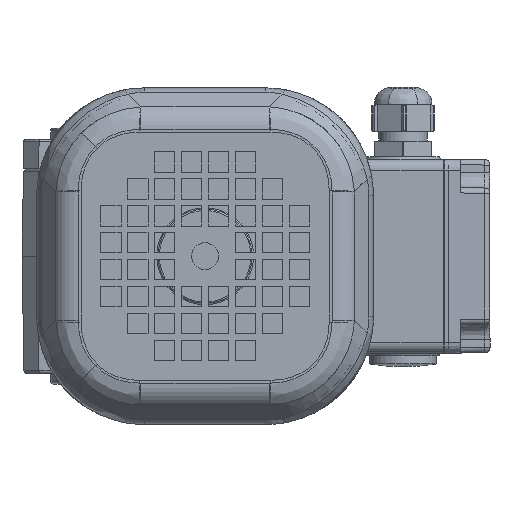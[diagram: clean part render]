
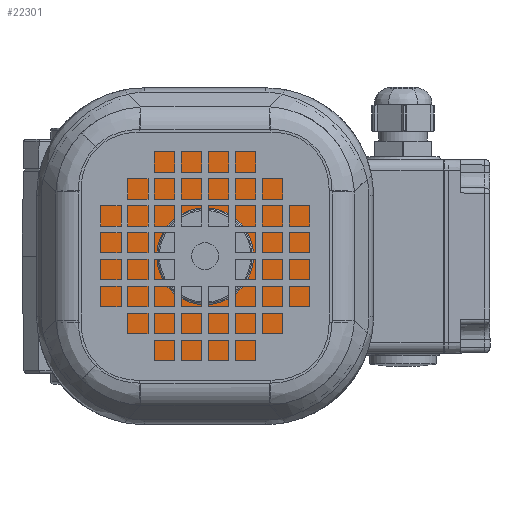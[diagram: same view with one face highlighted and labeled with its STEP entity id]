
A CAD part, left-side view. The second image highlights one B-rep face of the part: STEP entity #22301.
In plain terms, the highlighted planar face has unit normal (-1, 0, 0) as drawn and (0, 0, 1) by its records, which use the part's own axes.
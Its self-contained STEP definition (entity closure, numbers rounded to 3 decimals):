
#615 = EDGE_CURVE ( 'NONE', #2708, #2708, #21680, .T. ) ;
#1135 = DIRECTION ( 'NONE',  ( -1., 0., 0. ) ) ;
#1376 = AXIS2_PLACEMENT_3D ( 'NONE', #60683, #20599, #1135 ) ;
#2451 = CARTESIAN_POINT ( 'NONE',  ( -47.05, 0., 16. ) ) ;
#2708 = VERTEX_POINT ( 'NONE', #2451 ) ;
#4192 = ORIENTED_EDGE ( 'NONE', *, *, #32564, .T. ) ;
#5723 = ORIENTED_EDGE ( 'NONE', *, *, #615, .T. ) ;
#6871 = DIRECTION ( 'NONE',  ( 0., 0., -1. ) ) ;
#7060 = DIRECTION ( 'NONE',  ( 1., 0., 0. ) ) ;
#7244 = EDGE_LOOP ( 'NONE', ( #43090 ) ) ;
#9959 = CARTESIAN_POINT ( 'NONE',  ( -20.15, -36.806, 16. ) ) ;
#10882 = EDGE_LOOP ( 'NONE', ( #23407 ) ) ;
#11289 = EDGE_CURVE ( 'NONE', #31355, #31355, #59574, .T. ) ;
#11543 = EDGE_LOOP ( 'NONE', ( #5723 ) ) ;
#11747 = DIRECTION ( 'NONE',  ( 0., 0., 1. ) ) ;
#12589 = CARTESIAN_POINT ( 'NONE',  ( -20.15, 36.806, 16. ) ) ;
#12809 = AXIS2_PLACEMENT_3D ( 'NONE', #31704, #11747, #51683 ) ;
#14522 = FACE_BOUND ( 'NONE', #36989, .T. ) ;
#16807 = FACE_BOUND ( 'NONE', #7244, .T. ) ;
#17850 = DIRECTION ( 'NONE',  ( 0., 0., -1. ) ) ;
#18262 = CIRCLE ( 'NONE', #36012, 18. ) ;
#18799 = DIRECTION ( 'NONE',  ( 0., 0., -1. ) ) ;
#20599 = DIRECTION ( 'NONE',  ( 0., 0., 1. ) ) ;
#20972 = EDGE_CURVE ( 'NONE', #58269, #58269, #60138, .T. ) ;
#21643 = AXIS2_PLACEMENT_3D ( 'NONE', #49629, #18799, #59349 ) ;
#21680 = CIRCLE ( 'NONE', #1376, 47.05 ) ;
#22301 = ADVANCED_FACE ( 'NONE', ( #56152, #56961, #55405, #14522, #16807 ), #31487, .T. ) ;
#22824 = DIRECTION ( 'NONE',  ( 1., 0., 0. ) ) ;
#23407 = ORIENTED_EDGE ( 'NONE', *, *, #11289, .T. ) ;
#29465 = ORIENTED_EDGE ( 'NONE', *, *, #20972, .T. ) ;
#29883 = CIRCLE ( 'NONE', #43479, 1.1 ) ;
#31189 = DIRECTION ( 'NONE',  ( 1., 0., 0. ) ) ;
#31355 = VERTEX_POINT ( 'NONE', #12589 ) ;
#31487 = PLANE ( 'NONE',  #12809 ) ;
#31704 = CARTESIAN_POINT ( 'NONE',  ( 0., 0., 16. ) ) ;
#32564 = EDGE_CURVE ( 'NONE', #44344, #44344, #18262, .T. ) ;
#33592 = CARTESIAN_POINT ( 'NONE',  ( 43.6, 0., 16. ) ) ;
#36012 = AXIS2_PLACEMENT_3D ( 'NONE', #51145, #56095, #7060 ) ;
#36989 = EDGE_LOOP ( 'NONE', ( #29465 ) ) ;
#43090 = ORIENTED_EDGE ( 'NONE', *, *, #50642, .T. ) ;
#43479 = AXIS2_PLACEMENT_3D ( 'NONE', #45787, #6871, #31189 ) ;
#44344 = VERTEX_POINT ( 'NONE', #58144 ) ;
#45787 = CARTESIAN_POINT ( 'NONE',  ( -21.25, -36.806, 16. ) ) ;
#47378 = CARTESIAN_POINT ( 'NONE',  ( -21.25, 36.806, 16. ) ) ;
#49629 = CARTESIAN_POINT ( 'NONE',  ( 42.5, 0., 16. ) ) ;
#50642 = EDGE_CURVE ( 'NONE', #51976, #51976, #29883, .T. ) ;
#51145 = CARTESIAN_POINT ( 'NONE',  ( 0., 0., 16. ) ) ;
#51683 = DIRECTION ( 'NONE',  ( 1., 0., 0. ) ) ;
#51976 = VERTEX_POINT ( 'NONE', #9959 ) ;
#55405 = FACE_BOUND ( 'NONE', #10882, .T. ) ;
#56095 = DIRECTION ( 'NONE',  ( 0., 0., -1. ) ) ;
#56152 = FACE_BOUND ( 'NONE', #59699, .T. ) ;
#56961 = FACE_OUTER_BOUND ( 'NONE', #11543, .T. ) ;
#58144 = CARTESIAN_POINT ( 'NONE',  ( 18., 0., 16. ) ) ;
#58269 = VERTEX_POINT ( 'NONE', #33592 ) ;
#59227 = AXIS2_PLACEMENT_3D ( 'NONE', #47378, #17850, #22824 ) ;
#59349 = DIRECTION ( 'NONE',  ( 1., 0., 0. ) ) ;
#59574 = CIRCLE ( 'NONE', #59227, 1.1 ) ;
#59699 = EDGE_LOOP ( 'NONE', ( #4192 ) ) ;
#60138 = CIRCLE ( 'NONE', #21643, 1.1 ) ;
#60683 = CARTESIAN_POINT ( 'NONE',  ( 0., 0., 16. ) ) ;
